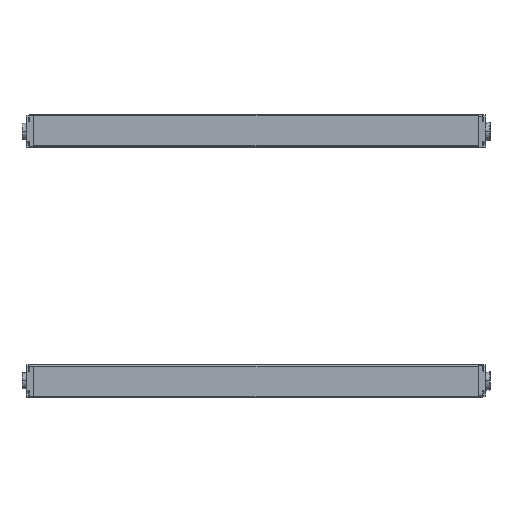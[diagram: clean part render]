
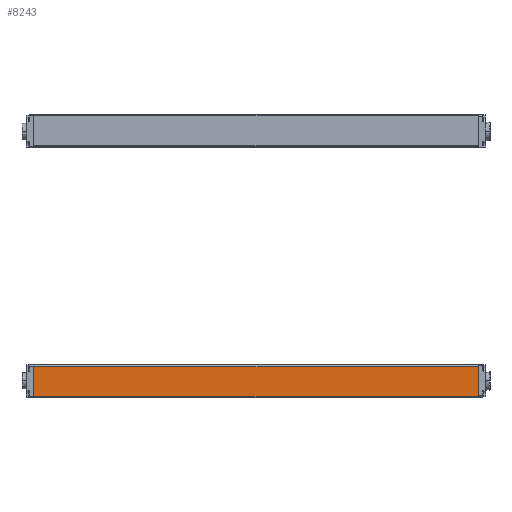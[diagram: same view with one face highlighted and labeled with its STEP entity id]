
A CAD part, left-side view. The second image highlights one B-rep face of the part: STEP entity #8243.
In plain terms, the highlighted planar face has unit normal (-1, 0, -0.009) as drawn and (1, 0, 0) by its records, which use the part's own axes.
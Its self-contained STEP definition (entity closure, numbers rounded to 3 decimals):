
#168 = EDGE_CURVE ( 'NONE', #4360, #5888, #5970, .T. ) ;
#314 = CARTESIAN_POINT ( 'NONE',  ( 15., 0., -16.9 ) ) ;
#1196 = PLANE ( 'NONE',  #16194 ) ;
#2541 = CARTESIAN_POINT ( 'NONE',  ( 15., 410., 10.9 ) ) ;
#2841 = EDGE_CURVE ( 'NONE', #16342, #5888, #15849, .T. ) ;
#2925 = CARTESIAN_POINT ( 'NONE',  ( 15., 0., 10.9 ) ) ;
#3404 = CARTESIAN_POINT ( 'NONE',  ( 15., 410., -16.9 ) ) ;
#3936 = VECTOR ( 'NONE', #17047, 1000. ) ;
#4241 = VECTOR ( 'NONE', #8962, 1000. ) ;
#4360 = VERTEX_POINT ( 'NONE', #5156 ) ;
#4968 = ORIENTED_EDGE ( 'NONE', *, *, #168, .T. ) ;
#4991 = CARTESIAN_POINT ( 'NONE',  ( 15., 410., -16.693 ) ) ;
#5156 = CARTESIAN_POINT ( 'NONE',  ( 15., 0., -16.693 ) ) ;
#5888 = VERTEX_POINT ( 'NONE', #4991 ) ;
#5889 = DIRECTION ( 'NONE',  ( 0., 0., -1. ) ) ;
#5970 = LINE ( 'NONE', #11503, #3936 ) ;
#6509 = ORIENTED_EDGE ( 'NONE', *, *, #2841, .F. ) ;
#6757 = CARTESIAN_POINT ( 'NONE',  ( 15., 410., -16.9 ) ) ;
#8108 = DIRECTION ( 'NONE',  ( 0., -1., 0. ) ) ;
#8194 = CARTESIAN_POINT ( 'NONE',  ( 15., 410., 10.9 ) ) ;
#8243 = ADVANCED_FACE ( 'NONE', ( #13674 ), #1196, .F. ) ;
#8826 = VERTEX_POINT ( 'NONE', #2925 ) ;
#8962 = DIRECTION ( 'NONE',  ( 0., 0., -1. ) ) ;
#11503 = CARTESIAN_POINT ( 'NONE',  ( 15., 410., -16.693 ) ) ;
#11611 = ORIENTED_EDGE ( 'NONE', *, *, #16307, .T. ) ;
#12293 = DIRECTION ( 'NONE',  ( -1., 0., 0. ) ) ;
#12397 = VECTOR ( 'NONE', #8108, 1000. ) ;
#12795 = LINE ( 'NONE', #314, #15305 ) ;
#13674 = FACE_OUTER_BOUND ( 'NONE', #14180, .T. ) ;
#14180 = EDGE_LOOP ( 'NONE', ( #14469, #4968, #6509, #11611 ) ) ;
#14469 = ORIENTED_EDGE ( 'NONE', *, *, #16887, .T. ) ;
#14996 = LINE ( 'NONE', #2541, #12397 ) ;
#15305 = VECTOR ( 'NONE', #5889, 1000. ) ;
#15849 = LINE ( 'NONE', #3404, #4241 ) ;
#16194 = AXIS2_PLACEMENT_3D ( 'NONE', #6757, #12293, #17841 ) ;
#16307 = EDGE_CURVE ( 'NONE', #16342, #8826, #14996, .T. ) ;
#16342 = VERTEX_POINT ( 'NONE', #8194 ) ;
#16887 = EDGE_CURVE ( 'NONE', #8826, #4360, #12795, .T. ) ;
#17047 = DIRECTION ( 'NONE',  ( 0., 1., 0. ) ) ;
#17841 = DIRECTION ( 'NONE',  ( 0., 0., 1. ) ) ;
